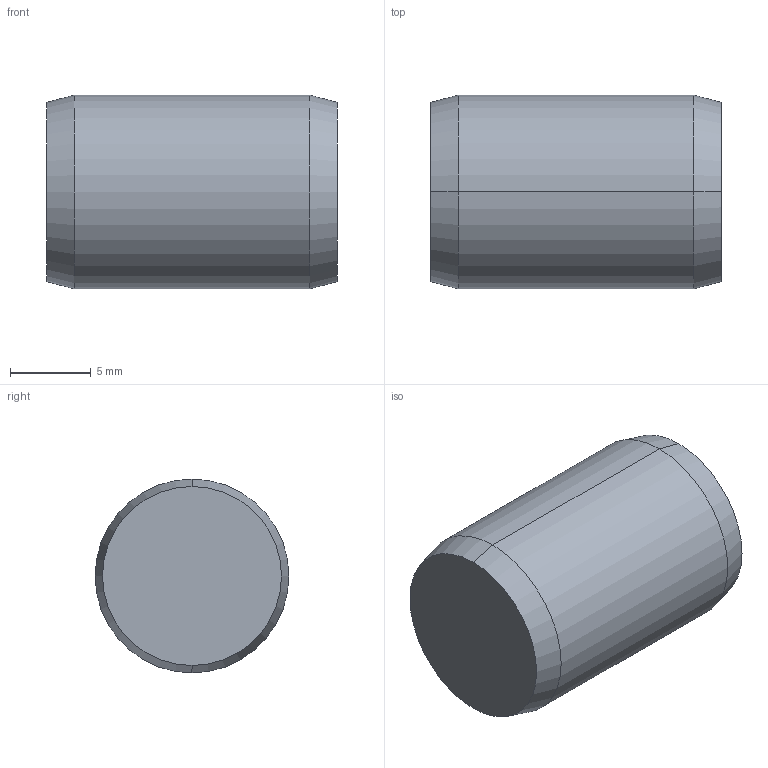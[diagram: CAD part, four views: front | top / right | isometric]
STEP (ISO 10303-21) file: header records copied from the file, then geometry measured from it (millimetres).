
FILE_DESCRIPTION (( 'STEP AP203' ), '1' );
FILE_NAME ('P1206.120-018.step', '2017-06-14T08:36:28', ( 'User' ), ( '' ), 'SwSTEP 2.0', 'SolidWorks 2009', '' );
FILE_SCHEMA (( 'CONFIG_CONTROL_DESIGN' ));
Length unit declared in the file: millimetre
Products named in the file (1): P1206.120-018
Bounding box: 18 x 12 x 12 mm (x, y, z)
Volume: 2007.3 mm3; surface area: 871.2 mm2
Topology: 1 solids, 1 shells, 8 faces, 14 edges, 8 vertices
Faces by surface type: cone 4, cylinder 2, plane 2
Entity records: 271 total; most frequent: DIRECTION 40, CARTESIAN_POINT 31, ORIENTED_EDGE 28, AXIS2_PLACEMENT_3D 17, EDGE_CURVE 14, FACE_OUTER_BOUND 8, PERSON_AND_ORGANIZATION 8, VERTEX_POINT 8
